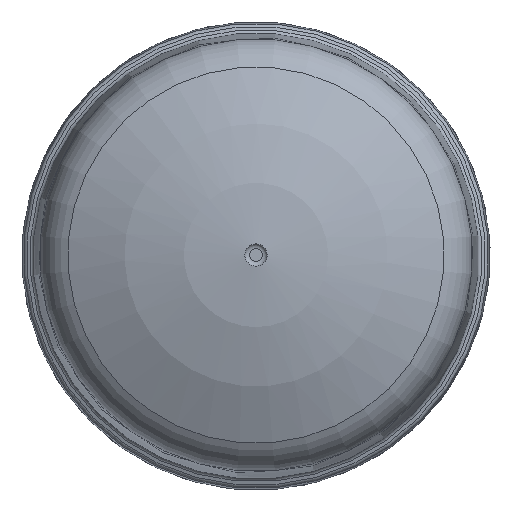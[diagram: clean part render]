
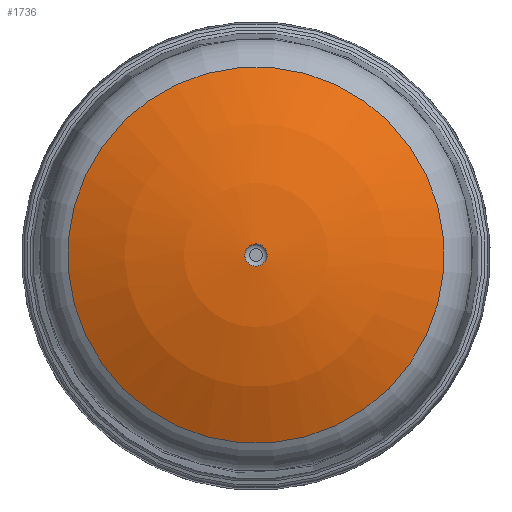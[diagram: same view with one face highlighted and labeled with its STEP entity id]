
A CAD part, top view. The second image highlights one B-rep face of the part: STEP entity #1736.
In plain terms, the highlighted spherical face has radius 85 mm.
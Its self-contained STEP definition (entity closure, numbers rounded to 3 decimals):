
#42=SPHERICAL_SURFACE('',#12147,85.);
#1736=ADVANCED_FACE('',(#4339,#4340),#42,.T.);
#4339=FACE_BOUND('',#5087,.T.);
#4340=FACE_BOUND('',#5088,.T.);
#5087=EDGE_LOOP('',(#8076));
#5088=EDGE_LOOP('',(#8077));
#8076=ORIENTED_EDGE('',*,*,#10892,.T.);
#8077=ORIENTED_EDGE('',*,*,#10893,.F.);
#9346=VERTEX_POINT('',#19338);
#9347=VERTEX_POINT('',#19340);
#10892=EDGE_CURVE('',#9346,#9346,#11259,.T.);
#10893=EDGE_CURVE('',#9347,#9347,#11260,.T.);
#11259=CIRCLE('',#12145,2.25);
#11260=CIRCLE('',#12146,38.185);
#12145=AXIS2_PLACEMENT_3D('',#19337,#14793,#14794);
#12146=AXIS2_PLACEMENT_3D('',#19339,#14795,#14796);
#12147=AXIS2_PLACEMENT_3D('',#19341,#14797,#14798);
#14793=DIRECTION('',(0.,0.,-1.));
#14794=DIRECTION('',(-0.966,0.259,0.));
#14795=DIRECTION('',(0.,0.,-1.));
#14796=DIRECTION('',(0.966,-0.259,0.));
#14797=DIRECTION('',(0.,0.,-1.));
#14798=DIRECTION('',(0.966,-0.259,0.));
#19337=CARTESIAN_POINT('',(200.,0.,110.67));
#19338=CARTESIAN_POINT('',(197.827,0.582,110.67));
#19339=CARTESIAN_POINT('',(200.,0.,101.64));
#19340=CARTESIAN_POINT('',(236.884,-9.883,101.64));
#19341=CARTESIAN_POINT('',(200.,0.,25.7));
